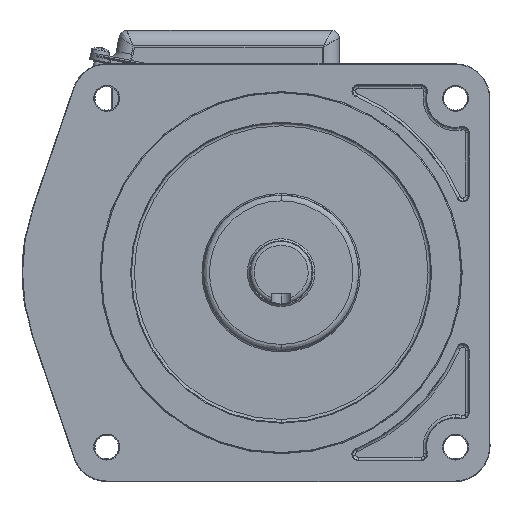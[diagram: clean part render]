
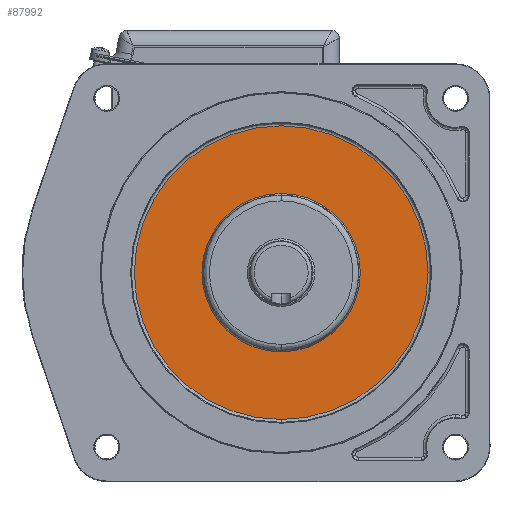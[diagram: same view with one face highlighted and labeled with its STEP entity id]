
A CAD part, top view. The second image highlights one B-rep face of the part: STEP entity #87992.
In plain terms, the highlighted planar face has unit normal (0, 0, 1).
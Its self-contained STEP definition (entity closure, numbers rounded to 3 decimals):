
#8295 = CIRCLE ( 'NONE', #8358, 75.929 ) ;
#8355 = DIRECTION ( 'NONE',  ( 1., 0., 0. ) ) ;
#8356 = DIRECTION ( 'NONE',  ( 0., 0., 1. ) ) ;
#8357 = CARTESIAN_POINT ( 'NONE',  ( 0., 30., 114. ) ) ;
#8358 = AXIS2_PLACEMENT_3D ( 'NONE', #8357, #8356, #8355 ) ;
#28629 = AXIS2_PLACEMENT_3D ( 'NONE', #28642, #28699, #28697 ) ;
#28631 = CIRCLE ( 'NONE', #28629, 75.929 ) ;
#28642 = CARTESIAN_POINT ( 'NONE',  ( 0., 30., 114. ) ) ;
#28695 = CARTESIAN_POINT ( 'NONE',  ( -75.929, 30., 114. ) ) ;
#28697 = DIRECTION ( 'NONE',  ( 1., 0., 0. ) ) ;
#28699 = DIRECTION ( 'NONE',  ( 0., 0., 1. ) ) ;
#29106 = CARTESIAN_POINT ( 'NONE',  ( 75.929, 30., 114. ) ) ;
#30002 = CARTESIAN_POINT ( 'NONE',  ( 0., 30., 114. ) ) ;
#30050 = CARTESIAN_POINT ( 'NONE',  ( 25.464, 30., 114. ) ) ;
#30051 = CARTESIAN_POINT ( 'NONE',  ( -25.464, 30., 114. ) ) ;
#30052 = DIRECTION ( 'NONE',  ( -1., 0., 0. ) ) ;
#30053 = DIRECTION ( 'NONE',  ( 0., 0., 1. ) ) ;
#30054 = AXIS2_PLACEMENT_3D ( 'NONE', #30002, #30053, #30052 ) ;
#30055 = CIRCLE ( 'NONE', #30054, 25.464 ) ;
#33805 = CIRCLE ( 'NONE', #33921, 25.464 ) ;
#33918 = DIRECTION ( 'NONE',  ( -1., 0., 0. ) ) ;
#33919 = DIRECTION ( 'NONE',  ( 0., 0., 1. ) ) ;
#33920 = CARTESIAN_POINT ( 'NONE',  ( 0., 30., 114. ) ) ;
#33921 = AXIS2_PLACEMENT_3D ( 'NONE', #33920, #33919, #33918 ) ;
#34201 = DIRECTION ( 'NONE',  ( 1., 0., 0. ) ) ;
#34203 = DIRECTION ( 'NONE',  ( 0., 0., 1. ) ) ;
#34207 = CARTESIAN_POINT ( 'NONE',  ( 90., 120., 114. ) ) ;
#34208 = AXIS2_PLACEMENT_3D ( 'NONE', #34207, #34203, #34201 ) ;
#34209 = PLANE ( 'NONE',  #34208 ) ;
#34210 = FACE_OUTER_BOUND ( 'NONE', #87917, .T. ) ;
#34211 = FACE_BOUND ( 'NONE', #87993, .T. ) ;
#82508 = EDGE_CURVE ( 'NONE', #87165, #87107, #8295, .T. ) ;
#87106 = EDGE_CURVE ( 'NONE', #87107, #87165, #28631, .T. ) ;
#87107 = VERTEX_POINT ( 'NONE', #28695 ) ;
#87165 = VERTEX_POINT ( 'NONE', #29106 ) ;
#87287 = EDGE_CURVE ( 'NONE', #87288, #87289, #30055, .T. ) ;
#87288 = VERTEX_POINT ( 'NONE', #30051 ) ;
#87289 = VERTEX_POINT ( 'NONE', #30050 ) ;
#87914 = ORIENTED_EDGE ( 'NONE', *, *, #87287, .F. ) ;
#87915 = ORIENTED_EDGE ( 'NONE', *, *, #87916, .F. ) ;
#87916 = EDGE_CURVE ( 'NONE', #87289, #87288, #33805, .T. ) ;
#87917 = EDGE_LOOP ( 'NONE', ( #87918, #87971 ) ) ;
#87918 = ORIENTED_EDGE ( 'NONE', *, *, #82508, .T. ) ;
#87971 = ORIENTED_EDGE ( 'NONE', *, *, #87106, .T. ) ;
#87992 = ADVANCED_FACE ( 'NONE', ( #34211, #34210 ), #34209, .T. ) ;
#87993 = EDGE_LOOP ( 'NONE', ( #87914, #87915 ) ) ;
